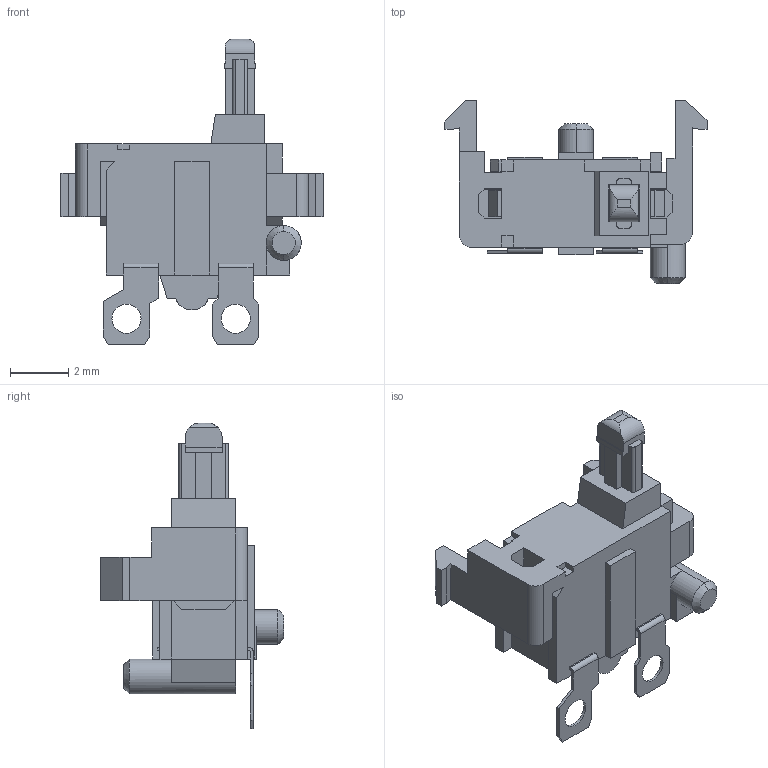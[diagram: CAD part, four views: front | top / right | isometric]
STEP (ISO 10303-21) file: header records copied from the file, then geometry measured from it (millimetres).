
FILE_DESCRIPTION (( 'STEP AP214' ), '1' );
FILE_NAME ('SPPB310400.STEP', '2011-08-30T00:50:28', ( ' ' ), ( '' ), 'SwSTEP 2.0', 'SolidWorks 2010', '' );
FILE_SCHEMA (( 'AUTOMOTIVE_DESIGN' ));
Length unit declared in the file: millimetre
Products named in the file (1): SPPB310400
Bounding box: 9 x 6.3 x 10.5 mm (x, y, z)
Volume: 109 mm3; surface area: 243.9 mm2
Topology: 1 solids, 1 shells, 209 faces, 582 edges, 382 vertices
Faces by surface type: plane 183, cylinder 22, cone 4
Entity records: 7481 total; most frequent: CARTESIAN_POINT 1194, ORIENTED_EDGE 1164, DIRECTION 1046, EDGE_CURVE 582, VECTOR 530, LINE 530, VERTEX_POINT 382, AXIS2_PLACEMENT_3D 258
